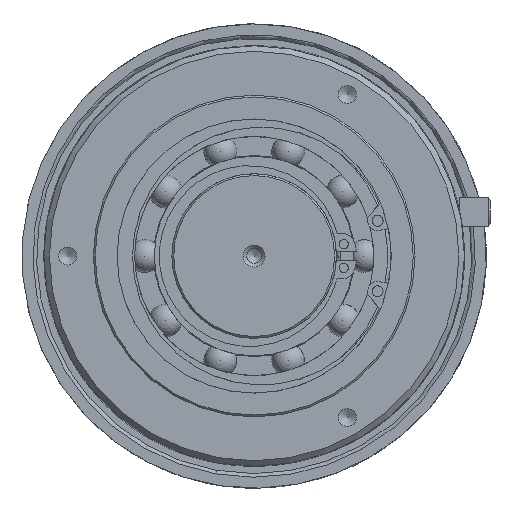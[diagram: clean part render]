
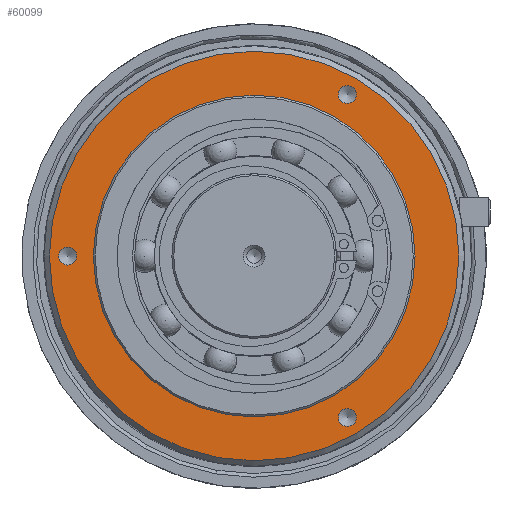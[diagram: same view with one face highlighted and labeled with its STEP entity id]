
A CAD part, left-side view. The second image highlights one B-rep face of the part: STEP entity #60099.
In plain terms, the highlighted planar face has unit normal (-1, 0, 0).
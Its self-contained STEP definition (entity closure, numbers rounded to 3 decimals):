
#10188=FACE_BOUND('',#16545,.T.);
#10189=FACE_BOUND('',#16546,.T.);
#10190=FACE_BOUND('',#16547,.T.);
#10191=FACE_BOUND('',#16548,.T.);
#13493=FACE_OUTER_BOUND('',#16544,.T.);
#16544=EDGE_LOOP('',(#52091));
#16545=EDGE_LOOP('',(#52092));
#16546=EDGE_LOOP('',(#52093));
#16547=EDGE_LOOP('',(#52094));
#16548=EDGE_LOOP('',(#52095));
#18752=CIRCLE('',#68143,2.459);
#18754=CIRCLE('',#68147,2.459);
#18756=CIRCLE('',#68151,2.459);
#18767=CIRCLE('',#68172,44.);
#18768=CIRCLE('',#68174,56.);
#24831=VERTEX_POINT('',#114020);
#24833=VERTEX_POINT('',#114026);
#24835=VERTEX_POINT('',#114032);
#24848=VERTEX_POINT('',#114068);
#24849=VERTEX_POINT('',#114071);
#33919=EDGE_CURVE('',#24831,#24831,#18752,.T.);
#33921=EDGE_CURVE('',#24833,#24833,#18754,.T.);
#33923=EDGE_CURVE('',#24835,#24835,#18756,.T.);
#33936=EDGE_CURVE('',#24848,#24848,#18767,.T.);
#33937=EDGE_CURVE('',#24849,#24849,#18768,.T.);
#52091=ORIENTED_EDGE('',*,*,#33937,.F.);
#52092=ORIENTED_EDGE('',*,*,#33919,.T.);
#52093=ORIENTED_EDGE('',*,*,#33921,.T.);
#52094=ORIENTED_EDGE('',*,*,#33923,.T.);
#52095=ORIENTED_EDGE('',*,*,#33936,.T.);
#54335=PLANE('',#68173);
#60099=ADVANCED_FACE('',(#13493,#10188,#10189,#10190,#10191),#54335,.T.);
#68143=AXIS2_PLACEMENT_3D('',#114021,#86983,#86984);
#68147=AXIS2_PLACEMENT_3D('',#114027,#86991,#86992);
#68151=AXIS2_PLACEMENT_3D('',#114033,#86999,#87000);
#68172=AXIS2_PLACEMENT_3D('',#114069,#87043,#87044);
#68173=AXIS2_PLACEMENT_3D('',#114070,#87045,#87046);
#68174=AXIS2_PLACEMENT_3D('',#114072,#87047,#87048);
#86983=DIRECTION('center_axis',(1.,0.,0.));
#86984=DIRECTION('ref_axis',(0.,0.,
1.));
#86991=DIRECTION('center_axis',(1.,0.,0.));
#86992=DIRECTION('ref_axis',(0.,0.,
1.));
#86999=DIRECTION('center_axis',(1.,0.,0.));
#87000=DIRECTION('ref_axis',(0.,0.,
1.));
#87043=DIRECTION('center_axis',(1.,0.,0.));
#87044=DIRECTION('ref_axis',(0.,1.,0.));
#87045=DIRECTION('center_axis',(-1.,0.,0.));
#87046=DIRECTION('ref_axis',(0.,0.,1.));
#87047=DIRECTION('center_axis',(1.,0.,0.));
#87048=DIRECTION('ref_axis',(0.,1.,0.));
#114020=CARTESIAN_POINT('',(-29.,-25.5,46.626));
#114021=CARTESIAN_POINT('Origin',(-29.,-25.5,44.167));
#114026=CARTESIAN_POINT('',(-29.,-25.5,-41.709));
#114027=CARTESIAN_POINT('Origin',(-29.,-25.5,-44.167));
#114032=CARTESIAN_POINT('',(-29.,51.,2.459));
#114033=CARTESIAN_POINT('Origin',(-29.,51.,0.));
#114068=CARTESIAN_POINT('',(-29.,44.,0.));
#114069=CARTESIAN_POINT('Origin',(-29.,0.,0.));
#114070=CARTESIAN_POINT('Origin',(-29.,50.,0.));
#114071=CARTESIAN_POINT('',(-29.,56.,0.));
#114072=CARTESIAN_POINT('Origin',(-29.,0.,0.));
